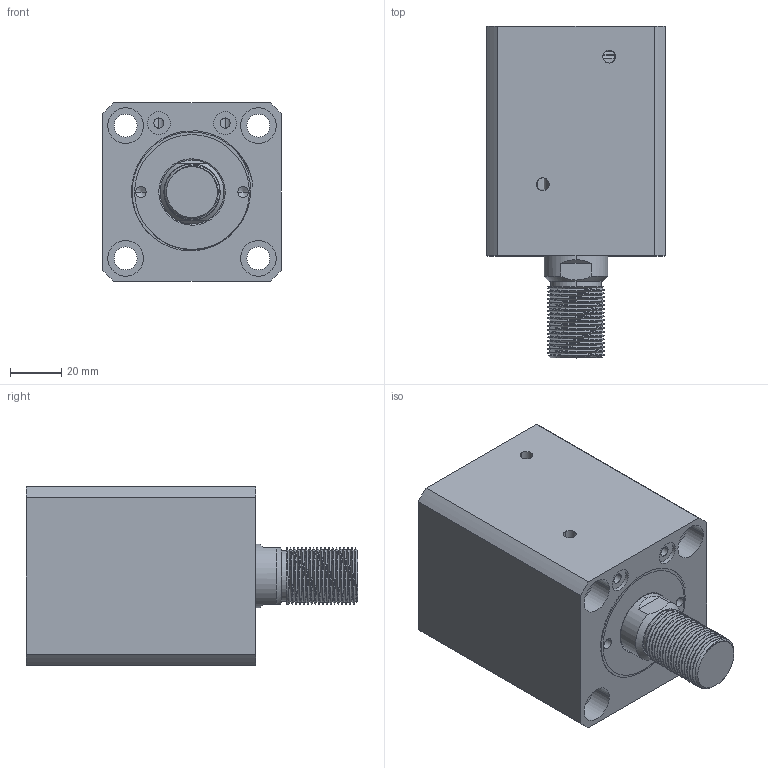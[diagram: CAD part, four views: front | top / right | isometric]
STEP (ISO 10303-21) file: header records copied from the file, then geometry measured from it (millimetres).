
FILE_DESCRIPTION (( 'STEP AP214' ), '1' );
FILE_NAME ('chtb-sdma40x35w_asm.STEP', '2018-06-05T08:18:19', ( 'Windows' ), ( 'Microsoft' ), 'SwSTEP 2.0', 'SolidWorks 2015', '' );
FILE_SCHEMA (( 'AUTOMOTIVE_DESIGN' ));
Length unit declared in the file: millimetre
Products named in the file (4): chtb-sdma40x35w_asm; CHTB-SD40QG; CHTB-SDMA40X35NBT; CHTB-SD40X35WHSG
Assembly tree (3 placements, depth 2):
  chtb-sdma40x35w_asm
    CHTB-SD40X35WHSG
    CHTB-SDMA40X35NBT
    CHTB-SD40QG
Bounding box: 70 x 130 x 70 mm (x, y, z)
Volume: 391164.2 mm3; surface area: 82759.7 mm2
Topology: 3 solids, 4 shells, 203 faces, 545 edges, 363 vertices
Faces by surface type: cylinder 122, plane 40, bspline 16, torus 14, cone 11
Entity records: 13587 total; most frequent: CARTESIAN_POINT 8658, ORIENTED_EDGE 1078, DIRECTION 914, EDGE_CURVE 539, AXIS2_PLACEMENT_3D 378, VERTEX_POINT 363, EDGE_LOOP 240, ADVANCED_FACE 203
